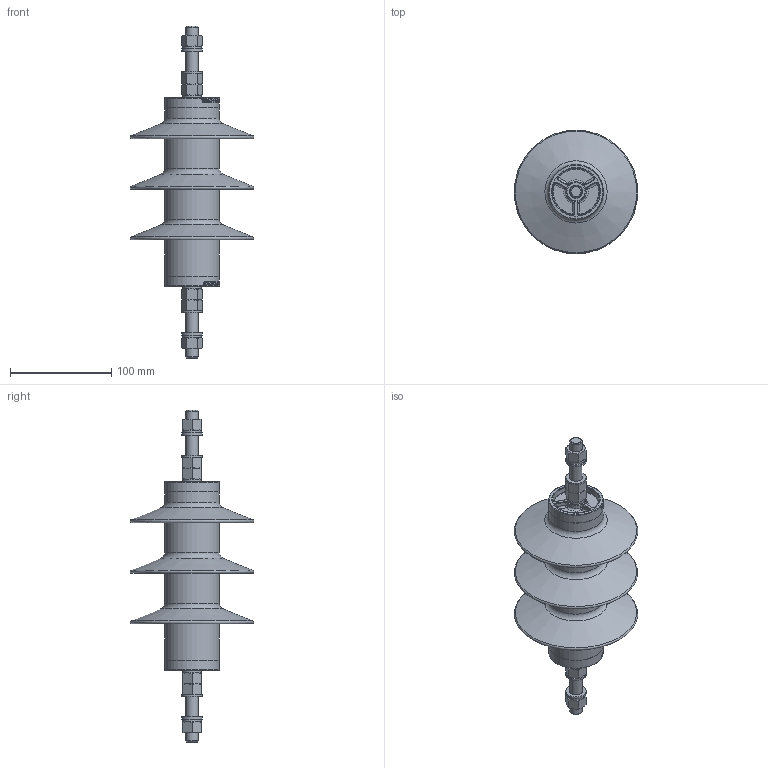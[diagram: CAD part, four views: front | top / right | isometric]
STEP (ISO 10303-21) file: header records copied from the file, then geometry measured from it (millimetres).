
FILE_DESCRIPTION(/* description */ (''),/* implementation_level */ '2;1');
FILE_NAME(/* name */ 'ASM07_ASM12_B_B.stp',/* time_stamp */ '2020-06-15T10:43:35+02:00',/* author */ (''),/* organization */ (''),/* preprocessor_version */ 'ST-DEVELOPER v16',/* originating_system */ 'SIEMENS PLM Software NX 10.0',/* authorisation */ '');
FILE_SCHEMA (('AUTOMOTIVE_DESIGN { 1 0 10303 214 3 1 1 1 }'));
Length unit declared in the file: millimetre
Products named in the file (1): 710_277C81DCyfqt
Bounding box: 121.99 x 121.99 x 327.86 mm (x, y, z)
Volume: 605240.7 mm3; surface area: 107666.6 mm2
Topology: 1 solids, 3 shells, 865 faces, 2048 edges, 1269 vertices
Faces by surface type: plane 328, bspline 290, cone 108, cylinder 82, torus 45, sphere 12
Full cylindrical faces by diameter (mm): 12 x8, 13 x4, 20 x4, 53.95 x2, 54 x4
Entity records: 79890 total; most frequent: CARTESIAN_POINT 57555, ORIENTED_EDGE 3868, DIRECTION 2378, EDGE_CURVE 1934, VERTEX_POINT 1254, B_SPLINE_CURVE_WITH_KNOTS 1179, EDGE_LOOP 1056, AXIS2_PLACEMENT_3D 1047
